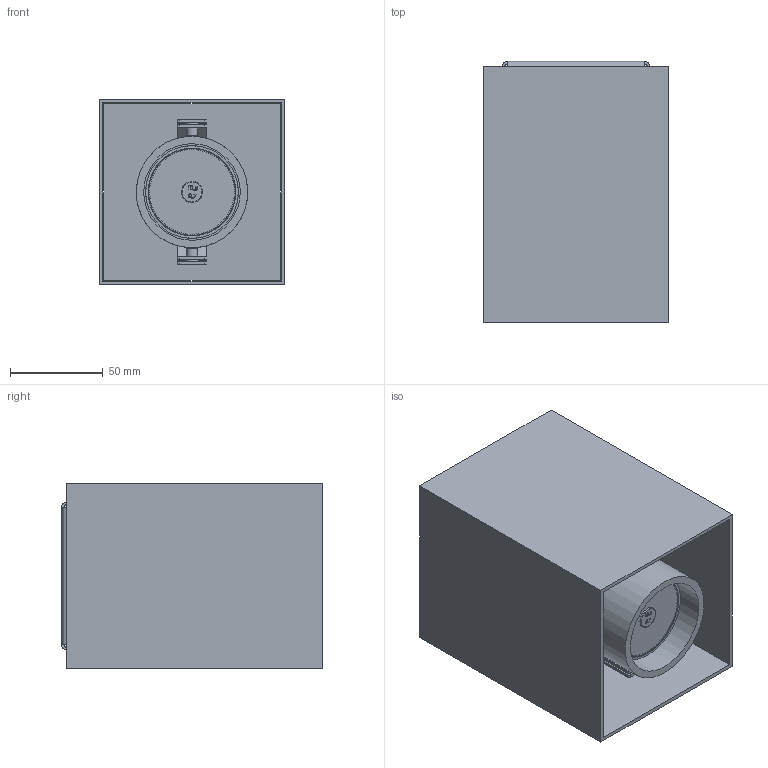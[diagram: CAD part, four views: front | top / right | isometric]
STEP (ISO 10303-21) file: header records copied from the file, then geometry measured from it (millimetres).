
FILE_DESCRIPTION(/* description */ (''),/* implementation_level */ '2;1');
FILE_NAME(/* name */ 'C:\Users\Giulia\Desktop\1855 - MINI PL.stp',/* time_stamp */ '2016-08-31T14:51:02+02:00',/* author */ ('Giulia'),/* organization */ (''),/* preprocessor_version */ 'ST-DEVELOPER v16.5',/* originating_system */ 'Autodesk Inventor 2017',/* authorisation */ '');
FILE_SCHEMA (('AUTOMOTIVE_DESIGN { 1 0 10303 214 3 1 1 }'));
Products named in the file (1): ST3855XX00-1_Shrinkwrap_2
Bounding box: 100 x 140.5 x 100 mm (x, y, z)
Volume: 204322.9 mm3; surface area: 211997.3 mm2
Topology: 6 solids, 16 shells, 2431 faces, 6102 edges, 3632 vertices
Faces by surface type: bspline 1163, plane 512, cone 323, cylinder 210, torus 191, sphere 32
Full cylindrical faces by diameter (mm): 1.26 x2, 1.6 x3, 2 x2, 2.9 x4, 3 x2, 3.5 x4, 4 x2, 4.5 x2, 5 x2, 6 x2, 7 x2, 11.55 x1, 50 x2, 52 x1, 53 x1, 53.835 x2, 60 x1
Entity records: 125045 total; most frequent: CARTESIAN_POINT 70291, ORIENTED_EDGE 11814, DIRECTION 10111, EDGE_CURVE 5906, AXIS2_PLACEMENT_3D 4452, VERTEX_POINT 3596, CIRCLE 2862, EDGE_LOOP 2583
